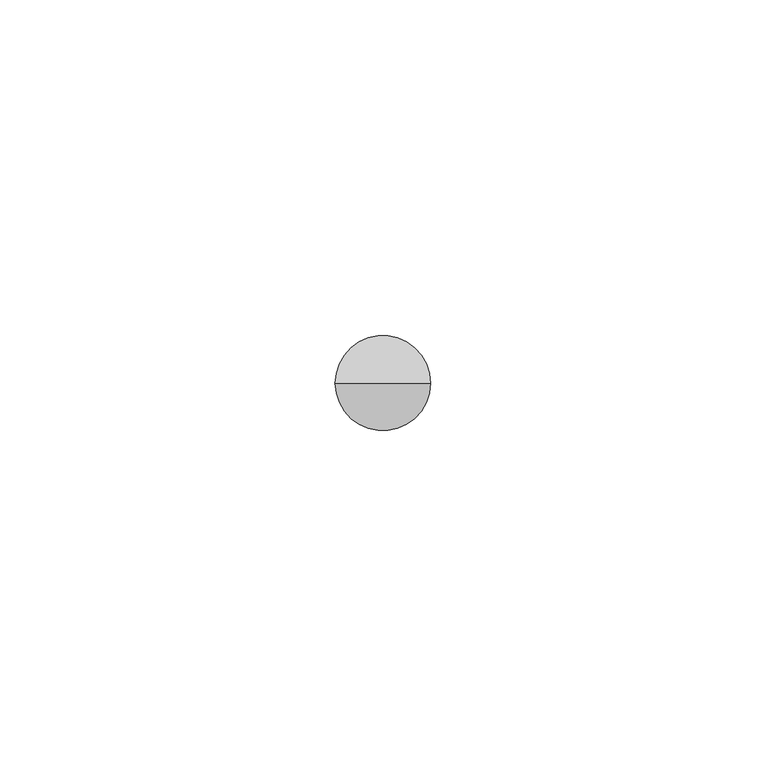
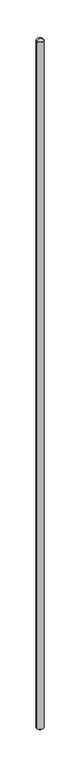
"""IFC4 building model written with IfcOpenShell, lengths in millimetres: proxy geometry, КНС_ЗаземлительВертикальный_DKC : NE1203CC_Омедненная сталь_D14.2."""

from ifc_helpers import new_model, si_unit, frame, origin, place, context, project, spatial, polyline, circle_curve, source, transform, mapped, element, save
from ifc_brep_helpers import cylinder_surface, revolved_surface, advanced_brep


def security_devices_e6ee3e28(model_context):
    return source(origin(), model_context, "Body", "AdvancedBrep", [
        advanced_brep(
        [(-7.1, 0.0, 1530.0), (7.1, 0.0, 1530.0), (7.1, 0.0, 5.0), (-7.1, 0.0, 5.0), (0.0, 0.0, 1535.0), (0.0, 0.0, 0.0)],
        [
            (0, 1, circle_curve(frame((0.0, 0.0, 1530.0), z_axis=(0.0, 0.0, -1.0), x_axis=(1.0, 0.0, 0.0)), 7.1)),
            (1, 2),
            (2, 3, circle_curve(frame((0.0, 0.0, 5.0), z_axis=(0.0, 0.0, 1.0), x_axis=(1.0, 0.0, 0.0)), 7.1)),
            (3, 0),
            (1, 0, circle_curve(frame((0.0, 0.0, 1530.0), z_axis=(0.0, 0.0, -1.0), x_axis=(1.0, 0.0, 0.0)), 7.1)),
            (3, 2, circle_curve(frame((0.0, 0.0, 5.0), z_axis=(0.0, 0.0, 1.0), x_axis=(1.0, 0.0, 0.0)), 7.1)),
            (4, 1),
            (0, 4),
            (2, 5),
            (5, 3),
        ],
        [
            cylinder_surface(frame((0.0, 0.0, 1520.0), z_axis=(0.0, 0.0, 1.0), x_axis=(1.0, 0.0, 0.0)), 7.1),
            revolved_surface(polyline([(7.1, 0.0, 1530.0), (0.0, 0.0, 1535.0)]), (0.0, 0.0, 1520.0), (0.0, 0.0, 1.0)),
            revolved_surface(polyline([(0.0, 0.0, 0.0), (7.1, 0.0, 5.0)]), (0.0, 0.0, 1520.0), (0.0, 0.0, 1.0)),
        ],
        [
            (0, [[1, 2, 3, 4]]),
            (0, [[5, -4, 6, -2]]),
            (1, [[7, -1, 8]]),
            (1, [[-8, -5, -7]]),
            (2, [[-3, 9, 10]]),
            (2, [[-6, -10, -9]]),
        ],
    ),
    ])


if __name__ == "__main__":
    model = new_model("IFC4")
    model_context = context("Model", 3, world=origin())
    ifc_project = project(units=[si_unit("LENGTHUNIT", "METRE", prefix="MILLI")], contexts=[model_context])
    site = spatial("IfcSite", under=ifc_project)
    building = spatial("IfcBuilding", under=site)
    placement = place(None, origin())
    security_devices_shape = security_devices_e6ee3e28(model_context)
    element("IfcBuildingElementProxy", 1, Name="КНС_ЗаземлительВертикальный_DKC : NE1203CC_Омедненная сталь_D14.2", ObjectType="КНС_ЗаземлительВертикальный_DKC : NE1203CC_Омедненная сталь_D14.2", at=placement, inside=building, context=model_context, shape_type="MappedRepresentation", body=[
        mapped(security_devices_shape, transform((0.0, 0.0, 0.0), x_axis=(1.0, 0.0, 0.0), y_axis=(0.0, 1.0, 0.0), z_axis=(0.0, 0.0, 1.0))),
    ])
    save(model, "model.ifc")
